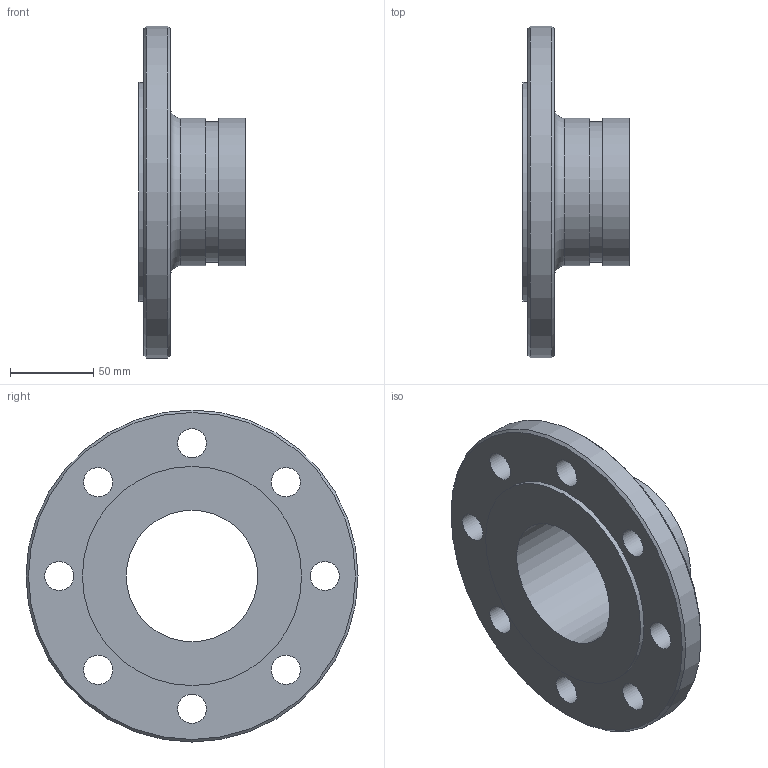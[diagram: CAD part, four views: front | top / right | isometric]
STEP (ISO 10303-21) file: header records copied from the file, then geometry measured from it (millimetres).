
FILE_DESCRIPTION(/* description */ ('VIC FLG ADPTR NIP PN10 RF No 45RE (OGSxFLG)'),/* implementation_level */ '2;1');
FILE_NAME(/* name */ 'C:\Users\vjadhav\OneDrive - Victaulic Company\Desktop\New folder\Victaulic_IPS_Flgd Adptr Nip_PN10 RF_No 45RE (OGSxFLG)\Victaulic_IPS_Flgd Adptr Nip_PN10 RF_No 45RE (OGSxFLG)_3 (80).stp',/* time_stamp */ '2024-04-01T13:02:12+02:00',/* author */ ('jheald'),/* organization */ ('Victaulic'),/* preprocessor_version */ 'ST-DEVELOPER v18.1',/* originating_system */ 'Autodesk Inventor 2020',/* authorisation */ '');
FILE_SCHEMA (('AUTOMOTIVE_DESIGN { 1 0 10303 214 3 1 1 }'));
Length unit declared in the file: inch
Products named in the file (1): 045RE-03.0
Bounding box: 64.01 x 200 x 200 mm (x, y, z)
Volume: 473051.7 mm3; surface area: 95099.6 mm2
Topology: 1 solids, 1 shells, 23 faces, 62 edges, 45 vertices
Faces by surface type: cylinder 14, plane 6, cone 2, torus 1
Full cylindrical faces by diameter (mm): 17.526 x8, 79.248 x1, 84.938 x1, 88.9 x2, 132.004 x1, 200 x1
Entity records: 872 total; most frequent: DIRECTION 156, CARTESIAN_POINT 131, ORIENTED_EDGE 124, AXIS2_PLACEMENT_3D 70, EDGE_CURVE 62, CIRCLE 46, EDGE_LOOP 45, VERTEX_POINT 45
